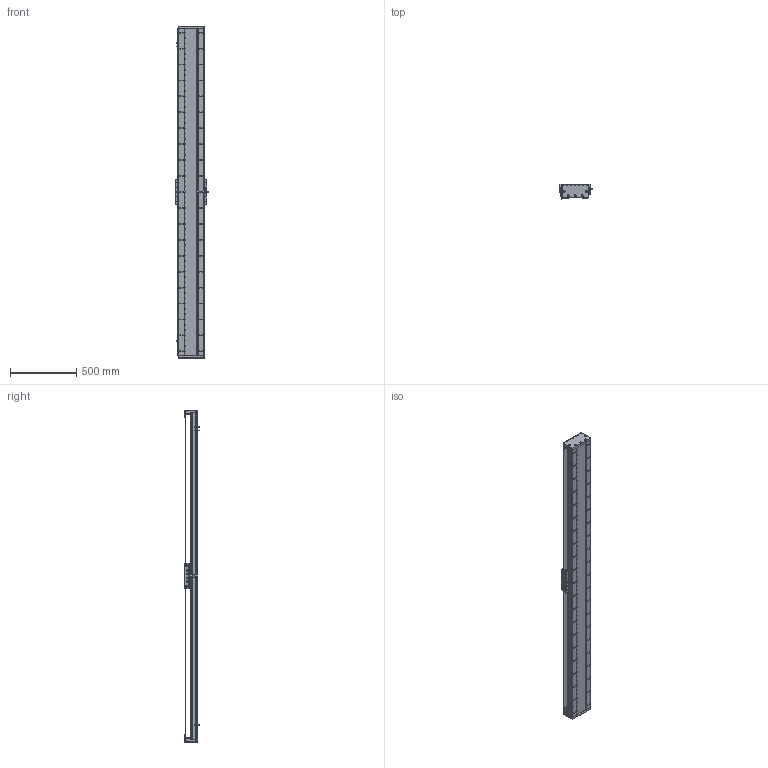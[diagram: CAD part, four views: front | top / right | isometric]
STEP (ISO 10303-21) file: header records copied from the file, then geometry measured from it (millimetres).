
FILE_DESCRIPTION (( 'STEP AP203' ), '1' );
FILE_NAME ('DA-C195-C2-T2220-C010-0.2 眻盄萇儂.STEP', '2025-08-15T01:11:27', ( '' ), ( '' ), 'SwSTEP 2.0', 'SolidWorks 2019', '' );
FILE_SCHEMA (( 'CONFIG_CONTROL_DESIGN' ));
Length unit declared in the file: millimetre
Products named in the file (15): LMT黍杅芛; IU-CU195-L 菁釱絳寢; DA195詩湍裔啣; PM-T45ㄗ侂狟ㄘ; DA195詩湍郪璃; DA165-GYP-00 光电感应片(默认); DA-C195-GD-DB-H-00 傷啣; CU195-C2賑輸-俋楷; DA-C195-C2-T2220-C010-0.2 眻盄萇儂; DA195詩湍菜輸; 葩璃 DA95-GT-T-00; MS200 棠掑喜S315-T1740; DA95-HXJ-00 遣喳砎蝶; IU-CU195-L-00 菁釱(L2460); DA195詩湍嶺輸
Assembly tree (29 placements, depth 3):
  DA-C195-C2-T2220-C010-0.2 眻盄萇儂
    DA195詩湍郪璃
      DA195詩湍菜輸  x2
      DA195詩湍裔啣
      DA195詩湍嶺輸  x2
      DA95-HXJ-00 遣喳砎蝶  x8
      DA-C195-GD-DB-H-00 傷啣  x2
    IU-CU195-L 菁釱絳寢
      IU-CU195-L-00 菁釱(L2460)
      葩璃 DA95-GT-T-00  x4
    LMT黍杅芛
    MS200 棠掑喜S315-T1740
    PM-T45ㄗ侂狟ㄘ  x3
    DA165-GYP-00 光电感应片(默认)
    CU195-C2賑輸-俋楷
Bounding box: 248 x 115.45 x 2500 mm (x, y, z)
Volume: 14442305.5 mm3; surface area: 4265186.1 mm2
Topology: 66 solids, 130 shells, 4344 faces, 12091 edges, 7607 vertices
Faces by surface type: cylinder 2327, plane 1399, cone 530, torus 52, sphere 36
Entity records: 138339 total; most frequent: CARTESIAN_POINT 37294, ORIENTED_EDGE 21066, DIRECTION 20376, EDGE_CURVE 10533, AXIS2_PLACEMENT_3D 7653, VERTEX_POINT 6809, VECTOR 5070, LINE 5070
